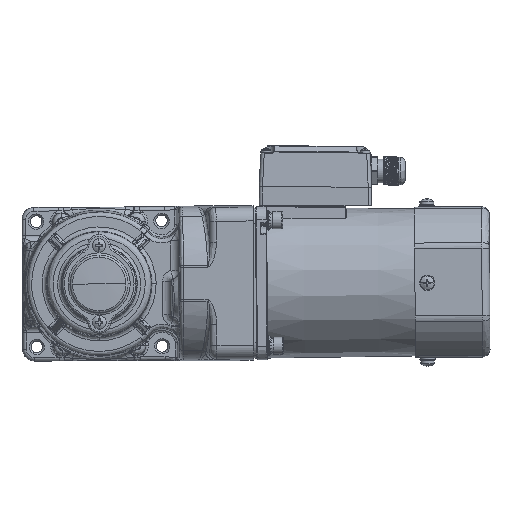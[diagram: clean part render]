
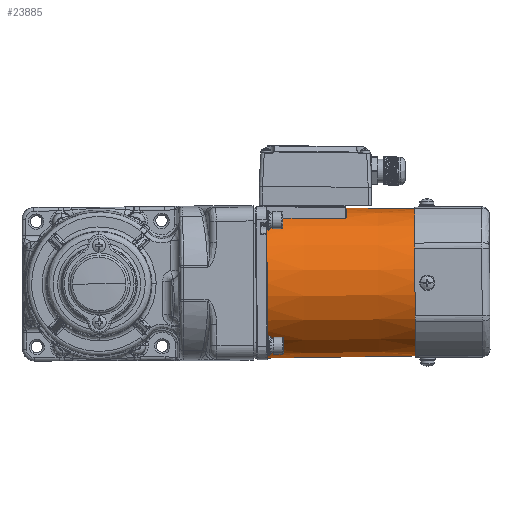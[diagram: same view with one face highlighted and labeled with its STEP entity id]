
A CAD part, left-side view. The second image highlights one B-rep face of the part: STEP entity #23885.
In plain terms, the highlighted conical face has half-angle 0.5 degrees and reference radius 44 mm.
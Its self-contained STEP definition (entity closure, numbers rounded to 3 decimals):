
#210 = CARTESIAN_POINT ( 'NONE',  ( 25.668, -18.814, 171.22 ) ) ;
#330 = DIRECTION ( 'NONE',  ( -0.009, 0., 1. ) ) ;
#2148 = AXIS2_PLACEMENT_3D ( 'NONE', #3676, #51467, #42542 ) ;
#2833 = CARTESIAN_POINT ( 'NONE',  ( 25.664, -18.822, 171.297 ) ) ;
#3676 = CARTESIAN_POINT ( 'NONE',  ( -12.207, 2.774, 171. ) ) ;
#4709 = DIRECTION ( 'NONE',  ( 0., 0., -1. ) ) ;
#6737 = ORIENTED_EDGE ( 'NONE', *, *, #50651, .T. ) ;
#8300 = DIRECTION ( 'NONE',  ( 1., 0., 0. ) ) ;
#9156 = CARTESIAN_POINT ( 'NONE',  ( 25.727, -18.708, 171.063 ) ) ;
#9250 = CARTESIAN_POINT ( 'NONE',  ( 25.831, -18.522, 171. ) ) ;
#12827 = VERTEX_POINT ( 'NONE', #124094 ) ;
#13406 = VERTEX_POINT ( 'NONE', #9250 ) ;
#18738 = CARTESIAN_POINT ( 'NONE',  ( 25.687, -18.78, 171.145 ) ) ;
#23313 = CIRCLE ( 'NONE', #102695, 44. ) ;
#23885 = ADVANCED_FACE ( 'NONE', ( #76918 ), #24153, .T. ) ;
#24153 = CONICAL_SURFACE ( 'NONE', #40411, 44., 0.009 ) ;
#28278 = CARTESIAN_POINT ( 'NONE',  ( 25.702, -18.752, 171.107 ) ) ;
#28916 = CARTESIAN_POINT ( 'NONE',  ( 25.664, -18.822, 171.297 ) ) ;
#29535 = CARTESIAN_POINT ( 'NONE',  ( 25.742, -18.682, 171.044 ) ) ;
#30918 = LINE ( 'NONE', #69715, #105123 ) ;
#35382 = CARTESIAN_POINT ( 'NONE',  ( -56.207, 2.774, 217.5 ) ) ;
#37495 = DIRECTION ( 'NONE',  ( 0.009, 0., 1. ) ) ;
#38717 = ORIENTED_EDGE ( 'NONE', *, *, #50035, .T. ) ;
#39099 = CARTESIAN_POINT ( 'NONE',  ( 25.715, -18.73, 171.084 ) ) ;
#40411 = AXIS2_PLACEMENT_3D ( 'NONE', #104980, #56572, #77546 ) ;
#42542 = DIRECTION ( 'NONE',  ( 1., 0., 0. ) ) ;
#46112 = CARTESIAN_POINT ( 'NONE',  ( 25.664, -18.822, 171.259 ) ) ;
#50035 = EDGE_CURVE ( 'NONE', #12827, #51971, #105934, .T. ) ;
#50651 = EDGE_CURVE ( 'NONE', #67119, #85211, #80283, .T. ) ;
#50656 = EDGE_CURVE ( 'NONE', #12827, #95149, #30918, .T. ) ;
#51467 = DIRECTION ( 'NONE',  ( 0., 0., -1. ) ) ;
#51591 = VECTOR ( 'NONE', #37495, 1000. ) ;
#51971 = VERTEX_POINT ( 'NONE', #105156 ) ;
#54908 = CARTESIAN_POINT ( 'NONE',  ( 31.387, 2.774, 171. ) ) ;
#56288 = CARTESIAN_POINT ( 'NONE',  ( 25.697, -18.762, 171.119 ) ) ;
#56375 = ORIENTED_EDGE ( 'NONE', *, *, #50656, .F. ) ;
#56572 = DIRECTION ( 'NONE',  ( 0., 0., 1. ) ) ;
#57566 = CARTESIAN_POINT ( 'NONE',  ( 25.681, -18.79, 171.163 ) ) ;
#58173 = CARTESIAN_POINT ( 'NONE',  ( 25.803, -18.572, 171. ) ) ;
#59838 = DIRECTION ( 'NONE',  ( 0., 0., 1. ) ) ;
#61160 = EDGE_CURVE ( 'NONE', #67119, #13406, #65715, .T. ) ;
#62036 = ORIENTED_EDGE ( 'NONE', *, *, #86737, .T. ) ;
#65715 = B_SPLINE_CURVE_WITH_KNOTS ( 'NONE', 3,
 ( #28916, #46112, #210, #57566, #18738, #56288, #28278, #84948, #85580, #39099, #123851, #9156, #29535, #104708, #58173, #97011 ),
 .UNSPECIFIED., .F., .F.,
 ( 4, 2, 2, 1, 1, 2, 2, 2, 4 ),
 ( 0., 0.25, 0.375, 0.437, 0.469, 0.484, 0.5, 0.75, 1. ),
 .UNSPECIFIED. ) ;
#66691 = LINE ( 'NONE', #68578, #51591 ) ;
#67119 = VERTEX_POINT ( 'NONE', #103016 ) ;
#68308 = ORIENTED_EDGE ( 'NONE', *, *, #74304, .T. ) ;
#68578 = CARTESIAN_POINT ( 'NONE',  ( 31.793, 2.774, 217.5 ) ) ;
#69715 = CARTESIAN_POINT ( 'NONE',  ( -56.207, 2.774, 217.5 ) ) ;
#74304 = EDGE_CURVE ( 'NONE', #85211, #95149, #23313, .T. ) ;
#76696 = ORIENTED_EDGE ( 'NONE', *, *, #83064, .T. ) ;
#76918 = FACE_OUTER_BOUND ( 'NONE', #100663, .T. ) ;
#77546 = DIRECTION ( 'NONE',  ( 1., 0., 0. ) ) ;
#80283 = B_SPLINE_CURVE_WITH_KNOTS ( 'NONE', 3,
 ( #2833, #88814, #89462, #118752 ),
 .UNSPECIFIED., .F., .F.,
 ( 4, 4 ),
 ( 0., 0.046 ),
 .UNSPECIFIED. ) ;
#83064 = EDGE_CURVE ( 'NONE', #101572, #13406, #95724, .T. ) ;
#84948 = CARTESIAN_POINT ( 'NONE',  ( 25.709, -18.74, 171.093 ) ) ;
#85211 = VERTEX_POINT ( 'NONE', #112488 ) ;
#85555 = AXIS2_PLACEMENT_3D ( 'NONE', #98682, #59838, #99309 ) ;
#85580 = CARTESIAN_POINT ( 'NONE',  ( 25.712, -18.734, 171.087 ) ) ;
#86737 = EDGE_CURVE ( 'NONE', #51971, #101572, #66691, .T. ) ;
#88814 = CARTESIAN_POINT ( 'NONE',  ( 25.742, -18.957, 186.698 ) ) ;
#89462 = CARTESIAN_POINT ( 'NONE',  ( 25.82, -19.091, 202.099 ) ) ;
#92575 = CARTESIAN_POINT ( 'NONE',  ( -12.207, 2.774, 217.5 ) ) ;
#95149 = VERTEX_POINT ( 'NONE', #35382 ) ;
#95724 = CIRCLE ( 'NONE', #2148, 43.594 ) ;
#97011 = CARTESIAN_POINT ( 'NONE',  ( 25.831, -18.522, 171. ) ) ;
#98682 = CARTESIAN_POINT ( 'NONE',  ( -12.207, 2.774, 130.5 ) ) ;
#99309 = DIRECTION ( 'NONE',  ( 1., 0., 0. ) ) ;
#100663 = EDGE_LOOP ( 'NONE', ( #56375, #38717, #62036, #76696, #123443, #6737, #68308 ) ) ;
#101572 = VERTEX_POINT ( 'NONE', #54908 ) ;
#102695 = AXIS2_PLACEMENT_3D ( 'NONE', #92575, #4709, #8300 ) ;
#103016 = CARTESIAN_POINT ( 'NONE',  ( 25.664, -18.822, 171.297 ) ) ;
#104708 = CARTESIAN_POINT ( 'NONE',  ( 25.78, -18.615, 171.012 ) ) ;
#104980 = CARTESIAN_POINT ( 'NONE',  ( -12.207, 2.774, 217.5 ) ) ;
#105123 = VECTOR ( 'NONE', #330, 1000. ) ;
#105156 = CARTESIAN_POINT ( 'NONE',  ( 31.033, 2.774, 130.5 ) ) ;
#105934 = CIRCLE ( 'NONE', #85555, 43.241 ) ;
#112488 = CARTESIAN_POINT ( 'NONE',  ( 25.898, -19.226, 217.5 ) ) ;
#118752 = CARTESIAN_POINT ( 'NONE',  ( 25.898, -19.226, 217.5 ) ) ;
#123443 = ORIENTED_EDGE ( 'NONE', *, *, #61160, .F. ) ;
#123851 = CARTESIAN_POINT ( 'NONE',  ( 25.716, -18.727, 171.081 ) ) ;
#124094 = CARTESIAN_POINT ( 'NONE',  ( -55.448, 2.774, 130.5 ) ) ;
